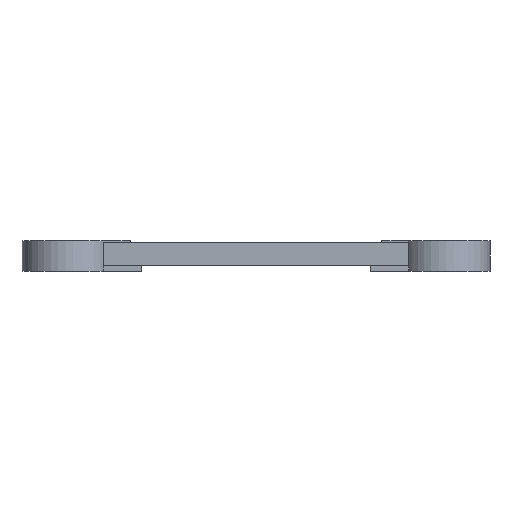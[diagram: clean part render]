
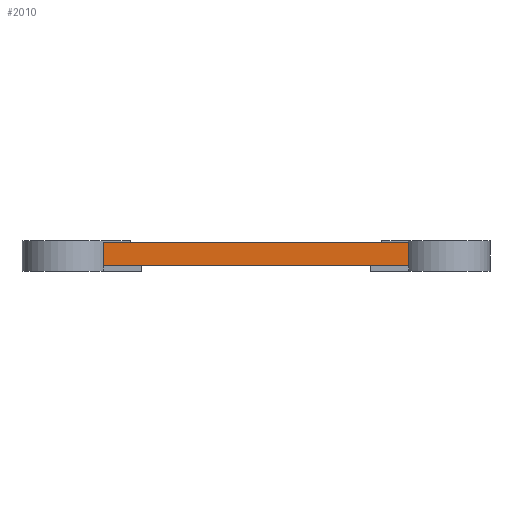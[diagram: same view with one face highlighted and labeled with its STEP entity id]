
A CAD part, front view. The second image highlights one B-rep face of the part: STEP entity #2010.
In plain terms, the highlighted planar face has unit normal (0, -1, 0).
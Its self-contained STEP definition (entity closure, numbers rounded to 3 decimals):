
#215 = PLANE('',#216);
#216 = AXIS2_PLACEMENT_3D('',#217,#218,#219);
#217 = CARTESIAN_POINT('',(-7.758,-13.466,17.6));
#218 = DIRECTION('',(0.,0.,1.));
#219 = DIRECTION('',(1.,0.,-0.));
#468 = PLANE('',#469);
#469 = AXIS2_PLACEMENT_3D('',#470,#471,#472);
#470 = CARTESIAN_POINT('',(-7.758,-13.466,16.4));
#471 = DIRECTION('',(1.,0.,-0.));
#472 = DIRECTION('',(0.,0.,1.));
#1245 = PLANE('',#1246);
#1246 = AXIS2_PLACEMENT_3D('',#1247,#1248,#1249);
#1247 = CARTESIAN_POINT('',(-7.758,-13.466,16.4));
#1248 = DIRECTION('',(0.,0.,1.));
#1249 = DIRECTION('',(1.,0.,-0.));
#1631 = PLANE('',#1632);
#1632 = AXIS2_PLACEMENT_3D('',#1633,#1634,#1635);
#1633 = CARTESIAN_POINT('',(8.042,-13.466,16.4));
#1634 = DIRECTION('',(1.,0.,-0.));
#1635 = DIRECTION('',(0.,0.,1.));
#1865 = VERTEX_POINT('',#1866);
#1866 = CARTESIAN_POINT('',(8.042,-13.466,16.4));
#1963 = VERTEX_POINT('',#1964);
#1964 = CARTESIAN_POINT('',(8.042,-13.466,17.6));
#1985 = EDGE_CURVE('',#1865,#1963,#1986,.T.);
#1986 = SURFACE_CURVE('',#1987,(#1991,#1998),.PCURVE_S1.);
#1987 = LINE('',#1988,#1989);
#1988 = CARTESIAN_POINT('',(8.042,-13.466,16.4));
#1989 = VECTOR('',#1990,1.);
#1990 = DIRECTION('',(0.,0.,1.));
#1991 = PCURVE('',#1631,#1992);
#1992 = DEFINITIONAL_REPRESENTATION('',(#1993),#1997);
#1993 = LINE('',#1994,#1995);
#1994 = CARTESIAN_POINT('',(0.,0.));
#1995 = VECTOR('',#1996,1.);
#1996 = DIRECTION('',(1.,0.));
#1997 = ( GEOMETRIC_REPRESENTATION_CONTEXT(2) 
PARAMETRIC_REPRESENTATION_CONTEXT() REPRESENTATION_CONTEXT('2D SPACE',''
  ) );
#1998 = PCURVE('',#1999,#2004);
#1999 = PLANE('',#2000);
#2000 = AXIS2_PLACEMENT_3D('',#2001,#2002,#2003);
#2001 = CARTESIAN_POINT('',(-7.758,-13.466,16.4));
#2002 = DIRECTION('',(-0.,1.,0.));
#2003 = DIRECTION('',(0.,0.,1.));
#2004 = DEFINITIONAL_REPRESENTATION('',(#2005),#2009);
#2005 = LINE('',#2006,#2007);
#2006 = CARTESIAN_POINT('',(0.,15.8));
#2007 = VECTOR('',#2008,1.);
#2008 = DIRECTION('',(1.,0.));
#2009 = ( GEOMETRIC_REPRESENTATION_CONTEXT(2) 
PARAMETRIC_REPRESENTATION_CONTEXT() REPRESENTATION_CONTEXT('2D SPACE',''
  ) );
#2010 = ADVANCED_FACE('',(#2011),#1999,.F.);
#2011 = FACE_BOUND('',#2012,.F.);
#2012 = EDGE_LOOP('',(#2013,#2038,#2059,#2060));
#2013 = ORIENTED_EDGE('',*,*,#2014,.T.);
#2014 = EDGE_CURVE('',#2015,#2017,#2019,.T.);
#2015 = VERTEX_POINT('',#2016);
#2016 = CARTESIAN_POINT('',(-7.758,-13.466,16.4));
#2017 = VERTEX_POINT('',#2018);
#2018 = CARTESIAN_POINT('',(-7.758,-13.466,17.6));
#2019 = SURFACE_CURVE('',#2020,(#2024,#2031),.PCURVE_S1.);
#2020 = LINE('',#2021,#2022);
#2021 = CARTESIAN_POINT('',(-7.758,-13.466,16.4));
#2022 = VECTOR('',#2023,1.);
#2023 = DIRECTION('',(0.,0.,1.));
#2024 = PCURVE('',#1999,#2025);
#2025 = DEFINITIONAL_REPRESENTATION('',(#2026),#2030);
#2026 = LINE('',#2027,#2028);
#2027 = CARTESIAN_POINT('',(0.,0.));
#2028 = VECTOR('',#2029,1.);
#2029 = DIRECTION('',(1.,0.));
#2030 = ( GEOMETRIC_REPRESENTATION_CONTEXT(2) 
PARAMETRIC_REPRESENTATION_CONTEXT() REPRESENTATION_CONTEXT('2D SPACE',''
  ) );
#2031 = PCURVE('',#468,#2032);
#2032 = DEFINITIONAL_REPRESENTATION('',(#2033),#2037);
#2033 = LINE('',#2034,#2035);
#2034 = CARTESIAN_POINT('',(0.,0.));
#2035 = VECTOR('',#2036,1.);
#2036 = DIRECTION('',(1.,0.));
#2037 = ( GEOMETRIC_REPRESENTATION_CONTEXT(2) 
PARAMETRIC_REPRESENTATION_CONTEXT() REPRESENTATION_CONTEXT('2D SPACE',''
  ) );
#2038 = ORIENTED_EDGE('',*,*,#2039,.T.);
#2039 = EDGE_CURVE('',#2017,#1963,#2040,.T.);
#2040 = SURFACE_CURVE('',#2041,(#2045,#2052),.PCURVE_S1.);
#2041 = LINE('',#2042,#2043);
#2042 = CARTESIAN_POINT('',(-7.758,-13.466,17.6));
#2043 = VECTOR('',#2044,1.);
#2044 = DIRECTION('',(1.,0.,0.));
#2045 = PCURVE('',#1999,#2046);
#2046 = DEFINITIONAL_REPRESENTATION('',(#2047),#2051);
#2047 = LINE('',#2048,#2049);
#2048 = CARTESIAN_POINT('',(1.2,0.));
#2049 = VECTOR('',#2050,1.);
#2050 = DIRECTION('',(0.,1.));
#2051 = ( GEOMETRIC_REPRESENTATION_CONTEXT(2) 
PARAMETRIC_REPRESENTATION_CONTEXT() REPRESENTATION_CONTEXT('2D SPACE',''
  ) );
#2052 = PCURVE('',#215,#2053);
#2053 = DEFINITIONAL_REPRESENTATION('',(#2054),#2058);
#2054 = LINE('',#2055,#2056);
#2055 = CARTESIAN_POINT('',(0.,0.));
#2056 = VECTOR('',#2057,1.);
#2057 = DIRECTION('',(1.,0.));
#2058 = ( GEOMETRIC_REPRESENTATION_CONTEXT(2) 
PARAMETRIC_REPRESENTATION_CONTEXT() REPRESENTATION_CONTEXT('2D SPACE',''
  ) );
#2059 = ORIENTED_EDGE('',*,*,#1985,.F.);
#2060 = ORIENTED_EDGE('',*,*,#2061,.T.);
#2061 = EDGE_CURVE('',#1865,#2015,#2062,.T.);
#2062 = SURFACE_CURVE('',#2063,(#2067,#2074),.PCURVE_S1.);
#2063 = LINE('',#2064,#2065);
#2064 = CARTESIAN_POINT('',(8.042,-13.466,16.4));
#2065 = VECTOR('',#2066,1.);
#2066 = DIRECTION('',(-1.,0.,0.));
#2067 = PCURVE('',#1999,#2068);
#2068 = DEFINITIONAL_REPRESENTATION('',(#2069),#2073);
#2069 = LINE('',#2070,#2071);
#2070 = CARTESIAN_POINT('',(0.,15.8));
#2071 = VECTOR('',#2072,1.);
#2072 = DIRECTION('',(0.,-1.));
#2073 = ( GEOMETRIC_REPRESENTATION_CONTEXT(2) 
PARAMETRIC_REPRESENTATION_CONTEXT() REPRESENTATION_CONTEXT('2D SPACE',''
  ) );
#2074 = PCURVE('',#1245,#2075);
#2075 = DEFINITIONAL_REPRESENTATION('',(#2076),#2080);
#2076 = LINE('',#2077,#2078);
#2077 = CARTESIAN_POINT('',(15.8,0.));
#2078 = VECTOR('',#2079,1.);
#2079 = DIRECTION('',(-1.,0.));
#2080 = ( GEOMETRIC_REPRESENTATION_CONTEXT(2) 
PARAMETRIC_REPRESENTATION_CONTEXT() REPRESENTATION_CONTEXT('2D SPACE',''
  ) );
